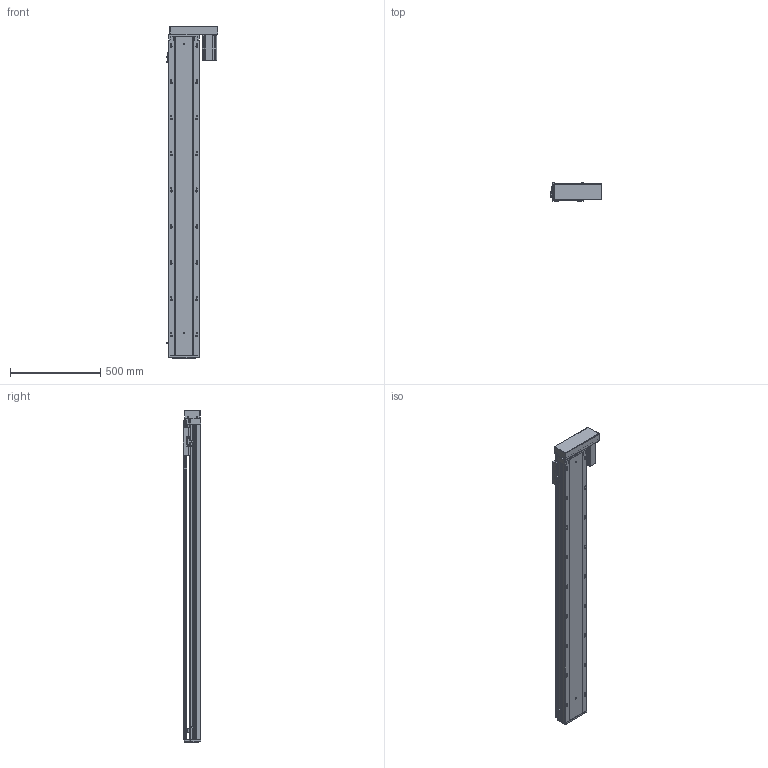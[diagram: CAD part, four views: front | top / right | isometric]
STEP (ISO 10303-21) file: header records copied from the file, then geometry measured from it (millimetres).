
FILE_DESCRIPTION (( 'STEP AP203' ), '1' );
FILE_NAME ('RY170-L2510-1400-RK.SLDASM_1500.step', '2021-03-12T09:37:36', ( '盈信电脑' ), ( '东莞市道滘镇水果街19号' ), 'SwSTEP 2.0', 'SolidWorks 2012', '' );
FILE_SCHEMA (( 'CONFIG_CONTROL_DESIGN' ));
Products named in the file (13): RY170-L2510-1400-RK.SLDASM_1500; RY170外置感应片(200共用）; 覜茼ん672; RY170-酘衵殏750W萇儂傷; 怢湛750W萇儂ㄗ80遺ㄘ; RY170酘衵殏萇儂欶750W; RY170-左右折电机安装板750W; 滅袉蝶18-20; RY170綴裔啣; RY170转折电机端支撑座(7004); 改造-RY170铝滑块25丝杆螺母; RY170-1400倰第裔啣-LK_1500; RY170-1400倰第菁釱-LK_1500
Assembly tree (15 placements, depth 3):
  RY170-L2510-1400-RK.SLDASM_1500
    RY170-1400倰第菁釱-LK_1500
    改造-RY170铝滑块25丝杆螺母
    RY170-1400倰第裔啣-LK_1500
    RY170綴裔啣
    滅袉蝶18-20  x2
    RY170转折电机端支撑座(7004)
    RY170-酘衵殏750W萇儂傷
      RY170-左右折电机安装板750W
      RY170酘衵殏萇儂欶750W
      怢湛750W萇儂ㄗ80遺ㄘ
    覜茼ん672  x3
    RY170外置感应片(200共用）
Bounding box: 286.2 x 97 x 1835 mm (x, y, z)
Volume: 9427038.1 mm3; surface area: 3035465.8 mm2
Topology: 14 solids, 14 shells, 2321 faces, 6666 edges, 4254 vertices
Faces by surface type: plane 1092, cylinder 988, cone 222, bspline 19
Entity records: 75082 total; most frequent: CARTESIAN_POINT 18254, ORIENTED_EDGE 11944, DIRECTION 11070, EDGE_CURVE 5972, VERTEX_POINT 3922, AXIS2_PLACEMENT_3D 3728, VECTOR 3614, LINE 3614
